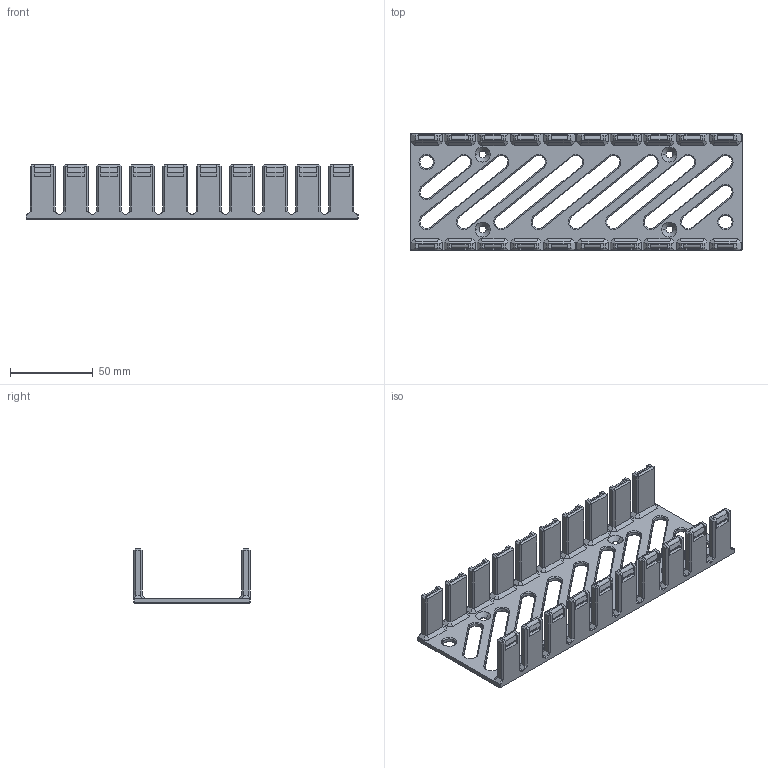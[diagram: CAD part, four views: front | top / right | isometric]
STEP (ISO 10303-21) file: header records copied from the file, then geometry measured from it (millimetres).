
FILE_DESCRIPTION (( 'STEP AP203' ), '1' );
FILE_NAME ('tray--screwMount--30mm.STEP', '2024-02-16T02:46:47', ( '' ), ( '' ), 'SwSTEP 2.0', 'SolidWorks 2020', '' );
FILE_SCHEMA (( 'CONFIG_CONTROL_DESIGN' ));
Length unit declared in the file: millimetre
Products named in the file (1): tray--screwMount--30mm
Bounding box: 200 x 70 x 33 mm (x, y, z)
Volume: 71093.1 mm3; surface area: 46219.8 mm2
Topology: 1 solids, 1 shells, 817 faces, 1988 edges, 1173 vertices
Faces by surface type: plane 688, cone 70, cylinder 59
Entity records: 23140 total; most frequent: CARTESIAN_POINT 3979, ORIENTED_EDGE 3976, DIRECTION 3821, EDGE_CURVE 1988, LINE 1791, VECTOR 1791, VERTEX_POINT 1173, AXIS2_PLACEMENT_3D 1015
